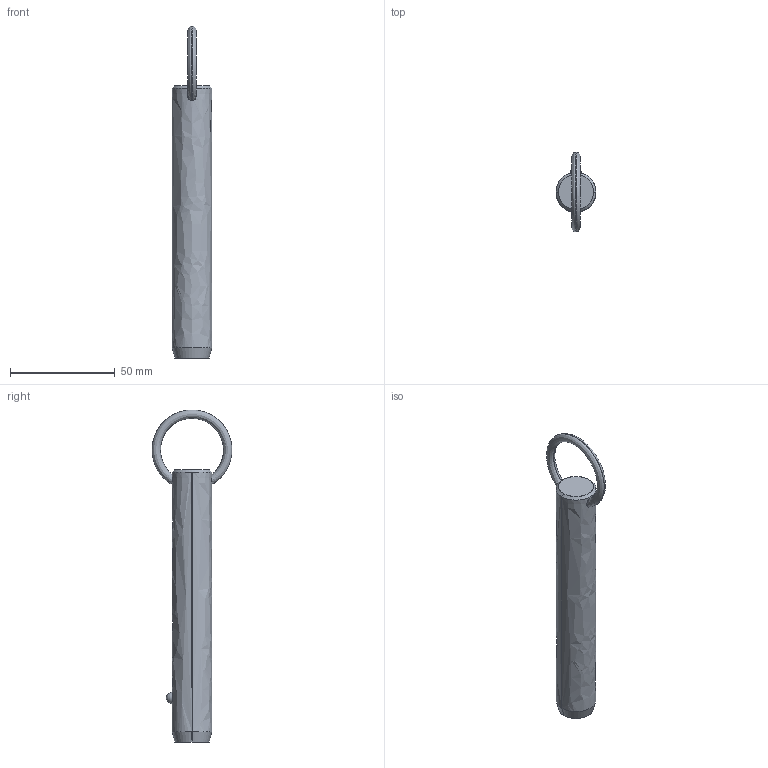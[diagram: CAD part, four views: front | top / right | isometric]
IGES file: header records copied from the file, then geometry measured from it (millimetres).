
Start section: SolidWorks IGES file using analytic representation for surfaces
Global section: file name: C:\Users\liam_\OneDrive\Documents\WORK\Work for WixRoyd\Job Files\J-00019 - Matt Davis CAD Checking\04. CAD Drawings\automotion20190605\P1250.2_v2\P1250.2_v2_20190729_IGES\P1250.075-380.igs; native system: SolidWorks 2017; preprocessor: SolidWorks 2017; author: liam_; date: 190729.235327; units: millimetre
Bounding box: 19 x 38.04 x 158.3 mm (x, y, z)
Surface area: 9274.6 mm2 (no closed solid volume)
Topology: 0 solids, 0 shells, 12 faces, 294 edges, 292 vertices
Faces by surface type: revolution 8, bspline 4
